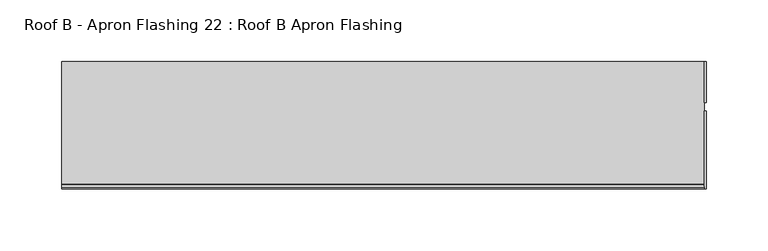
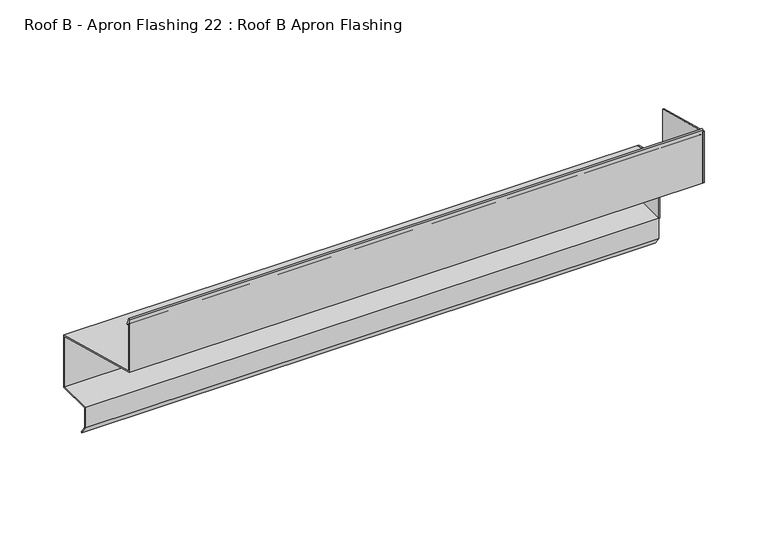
"""IFC4 building model written with IfcOpenShell, lengths in millimetres: proxy geometry, Roof B - Apron Flashing 22 : Roof B Apron Flashing."""

import ifcopenshell
import ifcopenshell.guid

model = None  # the IFC model being written
_history = None  # IfcOwnerHistory: only IFC2X3 demands one
_inside = {}  # id of a spatial element -> (the spatial element, [elements in it])
_under = {}  # id of a project, library or spatial element -> (it, [spatial elements below it])
_declared = {}  # id of a project -> (the project, [libraries it declares])
_typed = {}  # id of a type object -> (the type object, [elements of that type])
_made_of = {}  # id of a material, layer set ... -> (it, [elements and type objects made of it])


def new_model(schema):
    """Start an empty IFC model of exactly this schema.

    Asked for "IFC4X3", IfcOpenShell would pick the latest addendum, in which some entities
    have other attributes; the version numbers below select the first issue.
    IFC2X3 requires an IfcOwnerHistory on every rooted entity: one is made here for all.
    """
    global model, _history
    if schema == "IFC4X3":
        model = ifcopenshell.file(schema_version=(4, 3, 0, 0))
    else:
        model = ifcopenshell.file(schema=schema)
    _inside.clear()
    _under.clear()
    _declared.clear()
    _typed.clear()
    _made_of.clear()
    _history = None
    if model.schema == "IFC2X3":
        org = make("IfcOrganization", Name="unknown")
        user = make(
            "IfcPersonAndOrganization",
            ThePerson=make("IfcPerson", FamilyName="unknown"),
            TheOrganization=org,
        )
        app = make(
            "IfcApplication",
            ApplicationDeveloper=org,
            Version="unknown",
            ApplicationFullName="unknown",
            ApplicationIdentifier="unknown",
        )
        _history = make(
            "IfcOwnerHistory",
            OwningUser=user,
            OwningApplication=app,
            ChangeAction="ADDED",
            CreationDate=0,
        )
    return model


def make(cls, **values):
    """One entity of the class cls with the attributes given. An attribute that is None is left unset."""
    return model.create_entity(
        cls, **{name: value for name, value in values.items() if value is not None}
    )


def rooted(cls, **values):
    """An entity with a GlobalId (a new one), such as an element, a storey or a relation."""
    return make(cls, GlobalId=ifcopenshell.guid.new(), OwnerHistory=_history, **values)


def si_unit(unit_type, name, prefix=None):
    """IfcSIUnit, for example si_unit("LENGTHUNIT", "METRE", prefix="MILLI")."""
    return make("IfcSIUnit", UnitType=unit_type, Prefix=prefix, Name=name)


def assignment(units):
    """IfcUnitAssignment: the units of a project."""
    return None if units is None else make("IfcUnitAssignment", Units=units)


def point(xyz):
    """IfcCartesianPoint."""
    return None if xyz is None else make("IfcCartesianPoint", Coordinates=xyz)


def direction(xyz):
    """IfcDirection."""
    return None if xyz is None else make("IfcDirection", DirectionRatios=xyz)


def frame(location, z_axis=None, x_axis=None):
    """IfcAxis2Placement3D, a coordinate frame: its origin and axes. An axis left out is left unset."""
    return make(
        "IfcAxis2Placement3D",
        Location=point(location),
        Axis=direction(z_axis),
        RefDirection=direction(x_axis),
    )


def frame_2d(location, x_axis=None):
    """IfcAxis2Placement2D, a coordinate frame in the plane: its origin and x axis."""
    return make(
        "IfcAxis2Placement2D", Location=point(location), RefDirection=direction(x_axis)
    )


def origin():
    """The frame at (0, 0, 0) with its axes left unset."""
    return frame((0.0, 0.0, 0.0))


def place(relative_to, where):
    """IfcLocalPlacement: puts the frame where relative to a parent placement (None: the world)."""
    return make(
        "IfcLocalPlacement", PlacementRelTo=relative_to, RelativePlacement=where
    )


def context(
    kind, dimensions, precision=None, world=None, true_north=None, identifier=None
):
    """IfcGeometricRepresentationContext, for example the 3D "Model" context."""
    return make(
        "IfcGeometricRepresentationContext",
        ContextIdentifier=identifier,
        ContextType=kind,
        CoordinateSpaceDimension=dimensions,
        Precision=precision,
        WorldCoordinateSystem=world,
        TrueNorth=true_north,
    )


def project(units=None, contexts=None):
    """IfcProject with its units and contexts."""
    return rooted(
        "IfcProject",
        Name="project",
        RepresentationContexts=contexts,
        UnitsInContext=assignment(units),
    )


def spatial(cls, under=None, at=None, **own):
    """A site, building, storey or space (cls), placed at a placement, below another one or the project."""
    s = rooted(cls, ObjectPlacement=at, **own)
    if under is not None:
        _under.setdefault(under.id(), (under, []))[1].append(s)
    return s


def polyline(points):
    """IfcPolyline through the points."""
    return make("IfcPolyline", Points=[point(p) for p in points])


def circle_curve(where, radius):
    """IfcCircle in the frame where."""
    return make("IfcCircle", Position=where, Radius=radius)


def trimmed(basis, trim1, trim2, sense, master):
    """IfcTrimmedCurve: the piece of a basis curve between two trims."""
    return make(
        "IfcTrimmedCurve",
        BasisCurve=basis,
        Trim1=trim1,
        Trim2=trim2,
        SenseAgreement=sense,
        MasterRepresentation=master,
    )


def segment(curve, same_sense, transition):
    """IfcCompositeCurveSegment."""
    return make(
        "IfcCompositeCurveSegment",
        Transition=transition,
        SameSense=same_sense,
        ParentCurve=curve,
    )


def composite_curve(segments, self_intersect=None):
    """IfcCompositeCurve: segments joined end to end."""
    return make("IfcCompositeCurve", Segments=segments, SelfIntersect=self_intersect)


def outline(outer, holes=None, kind="AREA"):
    """IfcArbitraryClosedProfileDef: a profile drawn as a closed curve; with holes, ...WithVoids."""
    if holes is None:
        return make("IfcArbitraryClosedProfileDef", ProfileType=kind, OuterCurve=outer)
    return make(
        "IfcArbitraryProfileDefWithVoids",
        ProfileType=kind,
        OuterCurve=outer,
        InnerCurves=holes,
    )


def extrude(swept, where, along, depth):
    """IfcExtrudedAreaSolid: the profile swept, set in the frame where, extruded along a direction by depth."""
    return make(
        "IfcExtrudedAreaSolid",
        SweptArea=swept,
        Position=where,
        ExtrudedDirection=direction(along),
        Depth=depth,
    )


def shape(context_of_items, identifier, shape_type, items):
    """IfcShapeRepresentation: the items that make up one representation, for example the "Body"."""
    return make(
        "IfcShapeRepresentation",
        ContextOfItems=context_of_items,
        RepresentationIdentifier=identifier,
        RepresentationType=shape_type,
        Items=items,
    )


def source(mapping_origin, context_of_items, identifier, shape_type, items):
    """IfcRepresentationMap: a shape defined once, which mapped items show again and again."""
    return make(
        "IfcRepresentationMap",
        MappingOrigin=mapping_origin,
        MappedRepresentation=shape(context_of_items, identifier, shape_type, items),
    )


def transform(
    local_origin,
    x_axis=None,
    y_axis=None,
    z_axis=None,
    scale=None,
    scale2=None,
    scale3=None,
    uniform=True,
):
    """IfcCartesianTransformationOperator3D, or its non-uniform kind. x_axis, y_axis, z_axis: its Axis1, 2, 3."""
    if uniform:
        return make(
            "IfcCartesianTransformationOperator3D",
            Axis1=direction(x_axis),
            Axis2=direction(y_axis),
            LocalOrigin=point(local_origin),
            Scale=scale,
            Axis3=direction(z_axis),
        )
    return make(
        "IfcCartesianTransformationOperator3DnonUniform",
        Axis1=direction(x_axis),
        Axis2=direction(y_axis),
        LocalOrigin=point(local_origin),
        Scale=scale,
        Axis3=direction(z_axis),
        Scale2=scale2,
        Scale3=scale3,
    )


def mapped(mapping_source, mapping_target):
    """IfcMappedItem: shows the shape of a source again, moved by a transform."""
    return make(
        "IfcMappedItem", MappingSource=mapping_source, MappingTarget=mapping_target
    )


def made_of(thing, what):
    """Note that an element or type object is made of a material, layer set ...; save() writes the relation."""
    if what is not None:
        _made_of.setdefault(what.id(), (what, []))[1].append(thing)
    return thing


def element(
    cls,
    number,
    at=None,
    inside=None,
    cuts=None,
    type_object=None,
    material=None,
    context=None,
    identifier="Body",
    shape_type=None,
    held_by="IfcProductDefinitionShape",
    body=None,
    shapes=None,
    **own,
):
    """One element of the class cls, such as IfcWall. Its Tag is "e" and its number.

    at: its placement. inside: the storey or other place that contains it. cuts: it is an
    opening in that element (IfcRelVoidsElement). A single representation is given by context,
    identifier, shape_type and body (its items); several are given by shapes. held_by: the class
    of the entity that holds the representations. save() writes the other relations.
    """
    e = rooted(cls, Tag="e%d" % number, ObjectPlacement=at, **own)
    if body is not None:
        shapes = [shape(context, identifier, shape_type, body)]
    if shapes is not None:
        e.Representation = make(held_by, Representations=shapes)
    if inside is not None:
        _inside.setdefault(inside.id(), (inside, []))[1].append(e)
    if cuts is not None:
        rooted(
            "IfcRelVoidsElement", RelatingBuildingElement=cuts, RelatedOpeningElement=e
        )
    if type_object is not None:
        _typed.setdefault(type_object.id(), (type_object, []))[1].append(e)
    return made_of(e, material)


def aggregate(whole, parts):
    """IfcRelAggregates: a whole, such as a stair, and the parts it consists of."""
    return rooted("IfcRelAggregates", RelatingObject=whole, RelatedObjects=parts)


def save(model, path):
    """Write the relations noted so far, then the file.

    IfcRelAggregates (storeys below a building ...), IfcRelContainedInSpatialStructure (elements
    in a storey), IfcRelDefinesByType, IfcRelAssociatesMaterial and IfcRelDeclares: one each for
    every whole, place, type object, material and project.
    """
    for whole, parts in _under.values():
        aggregate(whole, parts)
    for where, things in _inside.values():
        rooted(
            "IfcRelContainedInSpatialStructure",
            RelatedElements=things,
            RelatingStructure=where,
        )
    for kind, things in _typed.values():
        rooted("IfcRelDefinesByType", RelatedObjects=things, RelatingType=kind)
    for what, things in _made_of.values():
        rooted("IfcRelAssociatesMaterial", RelatedObjects=things, RelatingMaterial=what)
    for by, libraries in _declared.values():
        rooted("IfcRelDeclares", RelatingContext=by, RelatedDefinitions=libraries)
    model.write(path)


def roof_b_apron_flashing_22_roof_b_apron_flashing_11900506(model_context):
    return source(origin(), model_context, "Body", "SweptSolid", [
        extrude(outline(polyline([(-23644.3163589, -392.0096237), (-23677.1912908, -392.0096237), (-23677.1912908, -333.2008122), (-23644.3163589, -342.0096237), (-23644.3163589, -392.0096237)])), frame((9575.7613925, 0.0, 0.0), z_axis=(1.0, 0.0, 0.0), x_axis=(0.0, 1.0, 0.0)), (0.0, 0.0, 1.0), 1.3240587),
        extrude(outline(polyline([(-23684.1053777, -283.1155152), (-23684.1053777, -332.3834644), (-23747.1893408, -315.4801674), (-23747.1893408, -266.2122183), (-23684.1053777, -283.1155152)])), frame((9575.7613925, 0.0, 0.0), z_axis=(1.0, 0.0, 0.0), x_axis=(0.0, 1.0, 0.0)), (0.0, 0.0, 1.0), 1.3240587),
        extrude(outline(composite_curve([segment(polyline([(-23644.3163589, -342.0096237), (-23644.3163589, -392.0096237), (-23676.9197237, -392.0096237), (-23676.9197237, -410.3959053), (-23671.708824, -417.8378413), (-23672.5279761, -418.4114178), (-23677.9197237, -410.7112041), (-23677.9197237, -391.0096237), (-23645.3163589, -391.0096237), (-23645.3163589, -342.7769507), (-23747.1893408, -315.4801674), (-23747.1893408, -264.8977528)]), True, "CONTINUOUS"), segment(trimmed(circle_curve(frame_2d((-23746.5102966, -264.8977528)), 0.6790442), [point((-23747.1893408, -264.8977528))], [point((-23745.8806978, -264.6433784))], False, "CARTESIAN"), True, "CONTINUOUS"), segment(polyline([(-23745.8806978, -264.6433784), (-23743.466243, -270.6193639)]), True, "CONTINUOUS"), segment(trimmed(circle_curve(frame_2d((-23743.9298349, -270.8066672)), 0.5), [point((-23743.466243, -270.6193639))], [point((-23744.3934268, -270.9939705))], False, "CARTESIAN"), True, "CONTINUOUS"), segment(polyline([(-23744.3934268, -270.9939705), (-23746.1893408, -266.5489273), (-23746.1893408, -314.7128405), (-23644.3163589, -342.0096237)]), True, "CONTINUOUS")], self_intersect=False)), frame((9056.7308071, 0.0, 0.0), z_axis=(1.0, 0.0, 0.0), x_axis=(0.0, 1.0, 0.0)), (0.0, 0.0, 1.0), 519.0305854),
    ])


if __name__ == "__main__":
    model = new_model("IFC4")
    model_context = context("Model", 3, world=origin())
    ifc_project = project(units=[si_unit("LENGTHUNIT", "METRE", prefix="MILLI")], contexts=[model_context])
    site = spatial("IfcSite", under=ifc_project)
    building = spatial("IfcBuilding", under=site)
    placement = place(None, origin())
    roof_b_apron_flashing_22_roof_b_apron_flashing_shape = roof_b_apron_flashing_22_roof_b_apron_flashing_11900506(model_context)
    element("IfcBuildingElementProxy", 1, Name="Roof B - Apron Flashing 22 : Roof B Apron Flashing", ObjectType="Roof B - Apron Flashing 22 : Roof B Apron Flashing", at=placement, inside=building, context=model_context, shape_type="MappedRepresentation", body=[
        mapped(roof_b_apron_flashing_22_roof_b_apron_flashing_shape, transform((0.0, 0.0, 0.0), x_axis=(1.0, 0.0, 0.0), y_axis=(0.0, 1.0, 0.0), z_axis=(0.0, 0.0, 1.0))),
    ])
    save(model, "model.ifc")
